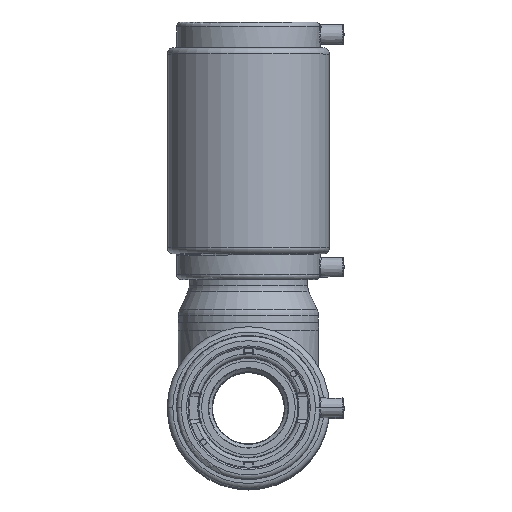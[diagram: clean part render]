
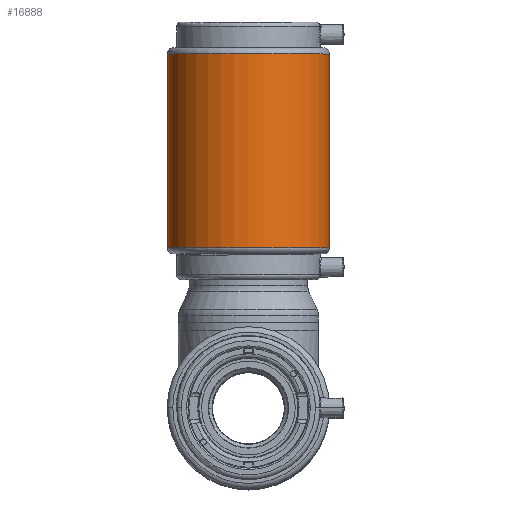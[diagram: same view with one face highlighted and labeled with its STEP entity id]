
A CAD part, top view. The second image highlights one B-rep face of the part: STEP entity #16888.
In plain terms, the highlighted cylindrical face has radius 52 mm (diameter 104 mm), a partial arc.
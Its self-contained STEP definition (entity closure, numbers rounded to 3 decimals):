
#5189 = LINE ( 'NONE', #34906, #45879 ) ;
#7012 = CARTESIAN_POINT ( 'NONE',  ( -52.314, 216.889, 7.056 ) ) ;
#8913 = DIRECTION ( 'NONE',  ( 0., 1., 0. ) ) ;
#9697 = CARTESIAN_POINT ( 'NONE',  ( 51.686, 216.889, 7.056 ) ) ;
#10342 = EDGE_CURVE ( 'NONE', #54178, #79565, #51473, .T. ) ;
#10343 = CARTESIAN_POINT ( 'NONE',  ( -0.314, 216.889, 7.056 ) ) ;
#12090 = EDGE_LOOP ( 'NONE', ( #18212, #17428, #26123, #61787 ) ) ;
#14720 = AXIS2_PLACEMENT_3D ( 'NONE', #10343, #63884, #18005 ) ;
#16888 = ADVANCED_FACE ( 'NONE', ( #17038 ), #73383, .T. ) ;
#17038 = FACE_OUTER_BOUND ( 'NONE', #12090, .T. ) ;
#17428 = ORIENTED_EDGE ( 'NONE', *, *, #58510, .T. ) ;
#18005 = DIRECTION ( 'NONE',  ( 1., 0., 0. ) ) ;
#18212 = ORIENTED_EDGE ( 'NONE', *, *, #98499, .F. ) ;
#22853 = DIRECTION ( 'NONE',  ( 0., 1., 0. ) ) ;
#26123 = ORIENTED_EDGE ( 'NONE', *, *, #10342, .T. ) ;
#34906 = CARTESIAN_POINT ( 'NONE',  ( -52.314, 260.609, 7.056 ) ) ;
#35980 = AXIS2_PLACEMENT_3D ( 'NONE', #89115, #50925, #96842 ) ;
#40437 = AXIS2_PLACEMENT_3D ( 'NONE', #68710, #22853, #76410 ) ;
#45879 = VECTOR ( 'NONE', #88432, 1000. ) ;
#50925 = DIRECTION ( 'NONE',  ( 0., 1., 0. ) ) ;
#51473 = LINE ( 'NONE', #77532, #89826 ) ;
#54178 = VERTEX_POINT ( 'NONE', #61511 ) ;
#58510 = EDGE_CURVE ( 'NONE', #64816, #54178, #66746, .T. ) ;
#61511 = CARTESIAN_POINT ( 'NONE',  ( 51.686, 92.826, 7.056 ) ) ;
#61787 = ORIENTED_EDGE ( 'NONE', *, *, #96711, .F. ) ;
#63884 = DIRECTION ( 'NONE',  ( 0., 1., 0. ) ) ;
#64816 = VERTEX_POINT ( 'NONE', #83372 ) ;
#66746 = CIRCLE ( 'NONE', #40437, 52. ) ;
#68710 = CARTESIAN_POINT ( 'NONE',  ( -0.314, 92.826, 7.056 ) ) ;
#71469 = CIRCLE ( 'NONE', #14720, 52. ) ;
#73383 = CYLINDRICAL_SURFACE ( 'NONE', #35980, 52. ) ;
#76410 = DIRECTION ( 'NONE',  ( 1., 0., 0. ) ) ;
#76485 = VERTEX_POINT ( 'NONE', #7012 ) ;
#77532 = CARTESIAN_POINT ( 'NONE',  ( 51.686, 260.609, 7.056 ) ) ;
#79565 = VERTEX_POINT ( 'NONE', #9697 ) ;
#83372 = CARTESIAN_POINT ( 'NONE',  ( -52.314, 92.826, 7.056 ) ) ;
#88432 = DIRECTION ( 'NONE',  ( 0., 1., 0. ) ) ;
#89115 = CARTESIAN_POINT ( 'NONE',  ( -0.314, 260.609, 7.056 ) ) ;
#89826 = VECTOR ( 'NONE', #8913, 1000. ) ;
#96711 = EDGE_CURVE ( 'NONE', #76485, #79565, #71469, .T. ) ;
#96842 = DIRECTION ( 'NONE',  ( 1., 0., 0. ) ) ;
#98499 = EDGE_CURVE ( 'NONE', #64816, #76485, #5189, .T. ) ;
